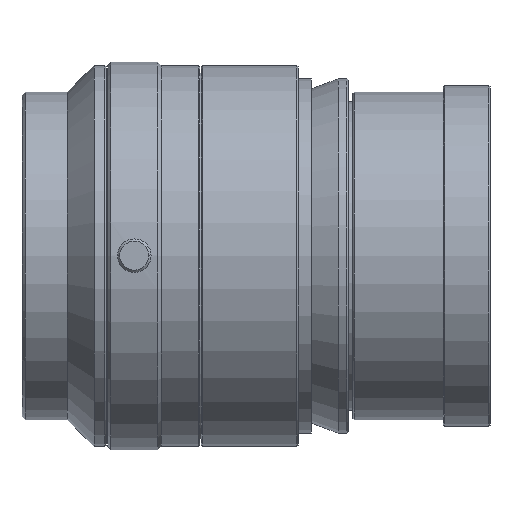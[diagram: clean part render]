
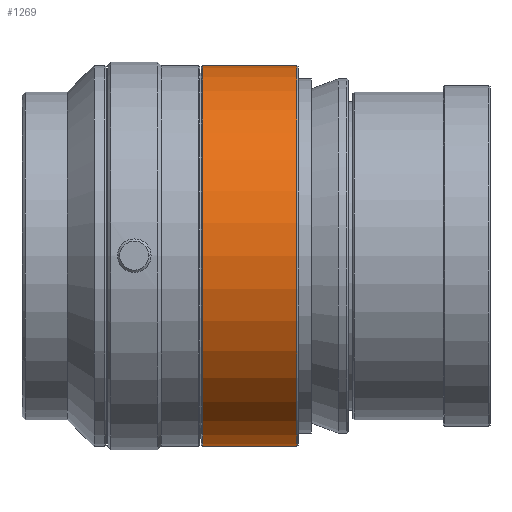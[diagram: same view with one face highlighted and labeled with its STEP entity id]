
A CAD part, top view. The second image highlights one B-rep face of the part: STEP entity #1269.
In plain terms, the highlighted cylindrical face has radius 28.5 mm (diameter 57 mm), a partial arc.
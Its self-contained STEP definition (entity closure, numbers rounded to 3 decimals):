
#43 = DIRECTION ( 'NONE',  ( -1., 0., 0. ) ) ;
#140 = ORIENTED_EDGE ( 'NONE', *, *, #1753, .T. ) ;
#149 = CARTESIAN_POINT ( 'NONE',  ( -234., 0., 0. ) ) ;
#228 = EDGE_CURVE ( 'NONE', #757, #3112, #1732, .T. ) ;
#239 = CIRCLE ( 'NONE', #449, 28.5 ) ;
#241 = ORIENTED_EDGE ( 'NONE', *, *, #741, .F. ) ;
#262 = CARTESIAN_POINT ( 'NONE',  ( -204.5, 28.5, 0. ) ) ;
#268 = CARTESIAN_POINT ( 'NONE',  ( -190.4, -28.5, 0. ) ) ;
#291 = CARTESIAN_POINT ( 'NONE',  ( -234., 28.5, 0. ) ) ;
#417 = VECTOR ( 'NONE', #43, 1000. ) ;
#449 = AXIS2_PLACEMENT_3D ( 'NONE', #2329, #876, #2581 ) ;
#540 = CARTESIAN_POINT ( 'NONE',  ( -204.5, -28.5, 0. ) ) ;
#588 = DIRECTION ( 'NONE',  ( -1., 0., 0. ) ) ;
#722 = VERTEX_POINT ( 'NONE', #268 ) ;
#741 = EDGE_CURVE ( 'NONE', #722, #2557, #1631, .T. ) ;
#757 = VERTEX_POINT ( 'NONE', #1264 ) ;
#872 = DIRECTION ( 'NONE',  ( 0., -1., 0. ) ) ;
#876 = DIRECTION ( 'NONE',  ( -1., 0., 0. ) ) ;
#977 = DIRECTION ( 'NONE',  ( -1., 0., 0. ) ) ;
#1149 = ORIENTED_EDGE ( 'NONE', *, *, #228, .T. ) ;
#1203 = AXIS2_PLACEMENT_3D ( 'NONE', #2042, #588, #2284 ) ;
#1264 = CARTESIAN_POINT ( 'NONE',  ( -190.4, 28.5, 0. ) ) ;
#1269 = ADVANCED_FACE ( 'NONE', ( #2176 ), #1390, .T. ) ;
#1372 = EDGE_CURVE ( 'NONE', #2557, #3112, #2511, .T. ) ;
#1390 = CYLINDRICAL_SURFACE ( 'NONE', #2717, 28.5 ) ;
#1631 = LINE ( 'NONE', #2949, #417 ) ;
#1732 = LINE ( 'NONE', #291, #2303 ) ;
#1753 = EDGE_CURVE ( 'NONE', #722, #757, #239, .T. ) ;
#2042 = CARTESIAN_POINT ( 'NONE',  ( -204.5, 0., 0. ) ) ;
#2090 = DIRECTION ( 'NONE',  ( -1., 0., 0. ) ) ;
#2176 = FACE_OUTER_BOUND ( 'NONE', #2962, .T. ) ;
#2284 = DIRECTION ( 'NONE',  ( 0., -1., 0. ) ) ;
#2303 = VECTOR ( 'NONE', #977, 1000. ) ;
#2329 = CARTESIAN_POINT ( 'NONE',  ( -190.4, 0., 0. ) ) ;
#2511 = CIRCLE ( 'NONE', #1203, 28.5 ) ;
#2557 = VERTEX_POINT ( 'NONE', #540 ) ;
#2581 = DIRECTION ( 'NONE',  ( 0., -1., 0. ) ) ;
#2679 = ORIENTED_EDGE ( 'NONE', *, *, #1372, .F. ) ;
#2717 = AXIS2_PLACEMENT_3D ( 'NONE', #149, #2090, #872 ) ;
#2949 = CARTESIAN_POINT ( 'NONE',  ( -234., -28.5, 0. ) ) ;
#2962 = EDGE_LOOP ( 'NONE', ( #140, #1149, #2679, #241 ) ) ;
#3112 = VERTEX_POINT ( 'NONE', #262 ) ;
